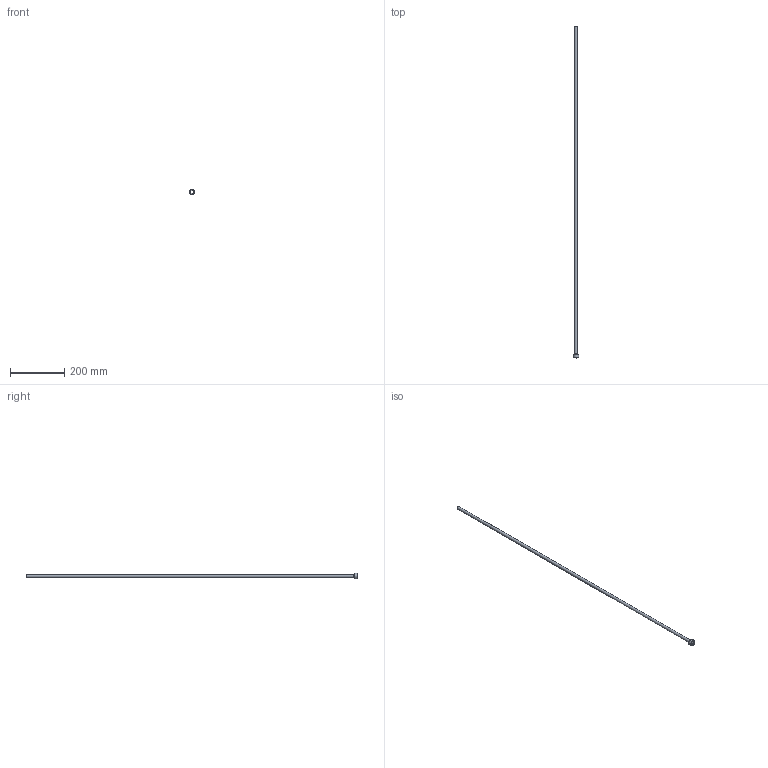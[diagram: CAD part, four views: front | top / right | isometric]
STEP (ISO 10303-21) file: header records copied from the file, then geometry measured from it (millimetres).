
FILE_DESCRIPTION(/* description */ (''),/* implementation_level */ '2;1');
FILE_NAME(/* name */ 'C:/Users/drich/Desktop/PT12-437-48 v1.step',/* time_stamp */ '2019-12-27T14:56:53-06:00',/* author */ (''),/* organization */ (''),/* preprocessor_version */ 'ST-DEVELOPER v18',/* originating_system */ 'Autodesk Translation Framework v8.12.0.6',/* authorisation */ '');
FILE_SCHEMA (('AUTOMOTIVE_DESIGN { 1 0 10303 214 3 1 1 }'));
Length unit declared in the file: inch
Products named in the file (1): PT12-437-48
Bounding box: 20.81 x 1219.2 x 20.81 mm (x, y, z)
Volume: 18614.5 mm3; surface area: 81043.4 mm2
Topology: 1 solids, 1 shells, 30 faces, 71 edges, 45 vertices
Faces by surface type: plane 22, cylinder 4, torus 2, cone 2
Full cylindrical faces by diameter (mm): 10.084 x1, 10.846 x1, 13.868 x1, 20.813 x1
Entity records: 913 total; most frequent: DIRECTION 168, CARTESIAN_POINT 147, ORIENTED_EDGE 142, EDGE_CURVE 71, AXIS2_PLACEMENT_3D 66, VERTEX_POINT 45, LINE 36, VECTOR 36
